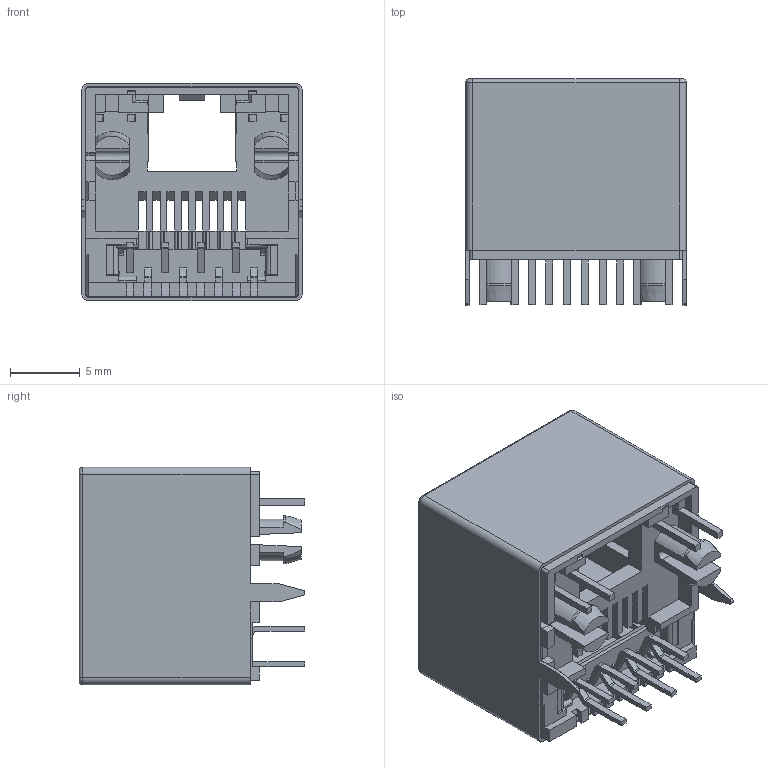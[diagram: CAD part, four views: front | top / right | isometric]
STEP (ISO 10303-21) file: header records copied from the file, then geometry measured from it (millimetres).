
FILE_DESCRIPTION((''),'2;1');
FILE_NAME('1','2023-11-15T16:32:34',('Administrator'),(''),'CREO PARAMETRIC BY PTC INC, 2019010','CREO PARAMETRIC BY PTC INC, 2019010','');
FILE_SCHEMA(('CONFIG_CONTROL_DESIGN'));
Length unit declared in the file: millimetre
Products named in the file (1): 1
Bounding box: 15.85 x 16.22 x 15.6 mm (x, y, z)
Volume: 1533.2 mm3; surface area: 4042.2 mm2
Topology: 1 solids, 1 shells, 823 faces, 2379 edges, 1551 vertices
Faces by surface type: plane 665, cylinder 146, torus 4, sphere 4, cone 4
Entity records: 26892 total; most frequent: CARTESIAN_POINT 5086, ORIENTED_EDGE 4750, DIRECTION 4235, EDGE_CURVE 2375, VECTOR 2045, LINE 2045, VERTEX_POINT 1551, AXIS2_PLACEMENT_3D 1095
